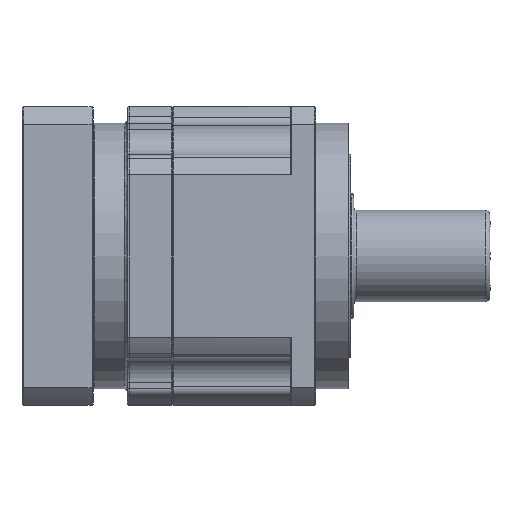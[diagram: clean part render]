
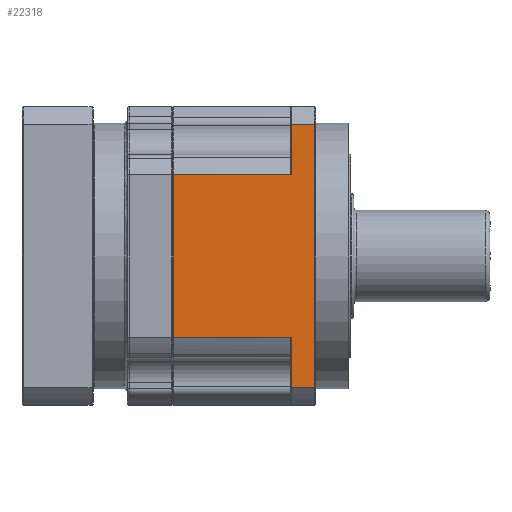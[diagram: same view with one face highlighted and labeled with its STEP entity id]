
A CAD part, front view. The second image highlights one B-rep face of the part: STEP entity #22318.
In plain terms, the highlighted planar face has unit normal (0, -1, 0).
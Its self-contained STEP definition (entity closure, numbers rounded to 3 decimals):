
#68 = EDGE_CURVE ( 'NONE', #31014, #24489, #23322, .T. ) ;
#308 = EDGE_CURVE ( 'NONE', #21958, #24489, #11934, .T. ) ;
#430 = FACE_OUTER_BOUND ( 'NONE', #13750, .T. ) ;
#794 = VECTOR ( 'NONE', #26829, 1000. ) ;
#1980 = DIRECTION ( 'NONE',  ( 0., 0., -1. ) ) ;
#2082 = CARTESIAN_POINT ( 'NONE',  ( 429.305, -90., 90. ) ) ;
#2519 = LINE ( 'NONE', #20621, #12382 ) ;
#2613 = CARTESIAN_POINT ( 'NONE',  ( 72., -90., -79.373 ) ) ;
#2708 = EDGE_CURVE ( 'NONE', #15415, #9565, #18592, .T. ) ;
#2767 = VERTEX_POINT ( 'NONE', #14782 ) ;
#4957 = CARTESIAN_POINT ( 'NONE',  ( 86., -90., 90. ) ) ;
#5237 = CARTESIAN_POINT ( 'NONE',  ( 72., -90., -49.054 ) ) ;
#5478 = VECTOR ( 'NONE', #9360, 1000. ) ;
#5897 = ORIENTED_EDGE ( 'NONE', *, *, #14089, .T. ) ;
#6022 = VECTOR ( 'NONE', #24439, 1000. ) ;
#6751 = DIRECTION ( 'NONE',  ( 0., -1., 0. ) ) ;
#7639 = CARTESIAN_POINT ( 'NONE',  ( 0.5, -90., -49.054 ) ) ;
#7694 = CARTESIAN_POINT ( 'NONE',  ( 86., -90., 79.373 ) ) ;
#7896 = EDGE_CURVE ( 'NONE', #22906, #22464, #15964, .T. ) ;
#7916 = ORIENTED_EDGE ( 'NONE', *, *, #29800, .T. ) ;
#8949 = CARTESIAN_POINT ( 'NONE',  ( 72., -90., 49.054 ) ) ;
#9106 = EDGE_CURVE ( 'NONE', #22906, #21958, #2519, .T. ) ;
#9360 = DIRECTION ( 'NONE',  ( 0., 0., 1. ) ) ;
#9565 = VERTEX_POINT ( 'NONE', #7694 ) ;
#10584 = VECTOR ( 'NONE', #25338, 1000. ) ;
#10841 = EDGE_CURVE ( 'NONE', #22464, #15415, #26813, .T. ) ;
#11934 = LINE ( 'NONE', #14336, #5478 ) ;
#12382 = VECTOR ( 'NONE', #30328, 1000. ) ;
#12581 = ORIENTED_EDGE ( 'NONE', *, *, #7896, .T. ) ;
#13750 = EDGE_LOOP ( 'NONE', ( #5897, #7916, #14436, #30246, #14221, #12581, #24623, #31320 ) ) ;
#13967 = VECTOR ( 'NONE', #20727, 1000. ) ;
#14089 = EDGE_CURVE ( 'NONE', #9565, #2767, #30205, .T. ) ;
#14221 = ORIENTED_EDGE ( 'NONE', *, *, #9106, .F. ) ;
#14336 = CARTESIAN_POINT ( 'NONE',  ( 0.5, -90., 0. ) ) ;
#14436 = ORIENTED_EDGE ( 'NONE', *, *, #68, .T. ) ;
#14782 = CARTESIAN_POINT ( 'NONE',  ( 72., -90., 79.373 ) ) ;
#15350 = VECTOR ( 'NONE', #21964, 1000. ) ;
#15415 = VERTEX_POINT ( 'NONE', #23271 ) ;
#15545 = CARTESIAN_POINT ( 'NONE',  ( 429.305, -90., -79.373 ) ) ;
#15964 = LINE ( 'NONE', #23243, #27325 ) ;
#16202 = LINE ( 'NONE', #24221, #6022 ) ;
#17817 = CARTESIAN_POINT ( 'NONE',  ( 429.305, -90., 79.373 ) ) ;
#18592 = LINE ( 'NONE', #4957, #794 ) ;
#19398 = AXIS2_PLACEMENT_3D ( 'NONE', #2082, #6751, #1980 ) ;
#19519 = CARTESIAN_POINT ( 'NONE',  ( 429.305, -90., 49.054 ) ) ;
#20621 = CARTESIAN_POINT ( 'NONE',  ( 0., -90., -49.054 ) ) ;
#20727 = DIRECTION ( 'NONE',  ( 1., 0., 0. ) ) ;
#21565 = PLANE ( 'NONE',  #19398 ) ;
#21958 = VERTEX_POINT ( 'NONE', #7639 ) ;
#21964 = DIRECTION ( 'NONE',  ( -1., 0., 0. ) ) ;
#22318 = ADVANCED_FACE ( 'NONE', ( #430 ), #21565, .T. ) ;
#22464 = VERTEX_POINT ( 'NONE', #2613 ) ;
#22906 = VERTEX_POINT ( 'NONE', #5237 ) ;
#23243 = CARTESIAN_POINT ( 'NONE',  ( 72., -90., 90. ) ) ;
#23271 = CARTESIAN_POINT ( 'NONE',  ( 86., -90., -79.373 ) ) ;
#23322 = LINE ( 'NONE', #19519, #15350 ) ;
#24221 = CARTESIAN_POINT ( 'NONE',  ( 72., -90., 90. ) ) ;
#24439 = DIRECTION ( 'NONE',  ( 0., 0., -1. ) ) ;
#24489 = VERTEX_POINT ( 'NONE', #28480 ) ;
#24623 = ORIENTED_EDGE ( 'NONE', *, *, #10841, .T. ) ;
#25338 = DIRECTION ( 'NONE',  ( -1., 0., 0. ) ) ;
#26813 = LINE ( 'NONE', #15545, #13967 ) ;
#26829 = DIRECTION ( 'NONE',  ( 0., 0., 1. ) ) ;
#27325 = VECTOR ( 'NONE', #28102, 1000. ) ;
#28102 = DIRECTION ( 'NONE',  ( 0., 0., -1. ) ) ;
#28480 = CARTESIAN_POINT ( 'NONE',  ( 0.5, -90., 49.054 ) ) ;
#29800 = EDGE_CURVE ( 'NONE', #2767, #31014, #16202, .T. ) ;
#30205 = LINE ( 'NONE', #17817, #10584 ) ;
#30246 = ORIENTED_EDGE ( 'NONE', *, *, #308, .F. ) ;
#30328 = DIRECTION ( 'NONE',  ( -1., 0., 0. ) ) ;
#31014 = VERTEX_POINT ( 'NONE', #8949 ) ;
#31320 = ORIENTED_EDGE ( 'NONE', *, *, #2708, .T. ) ;
